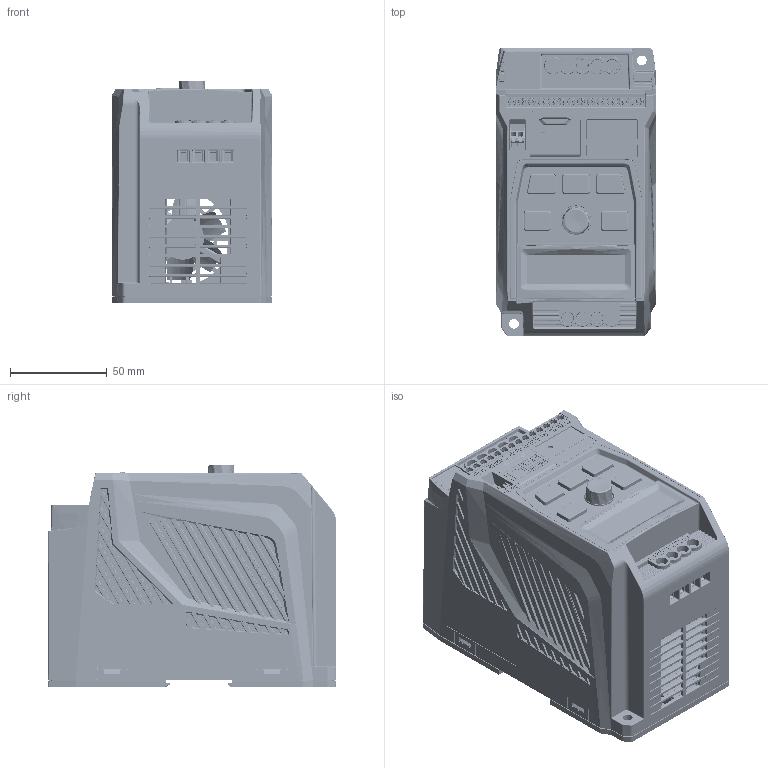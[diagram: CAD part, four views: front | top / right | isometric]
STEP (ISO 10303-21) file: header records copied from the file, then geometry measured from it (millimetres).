
FILE_DESCRIPTION(('STEP AP203'), '1');
FILE_NAME('NCI-G0.75_P1.5-4B', '2025-05-20T07:13:42', (' '), (' '), 'C3D Converter', 'C3D Toolkit', '');
FILE_SCHEMA(('CONFIG_CONTROL_DESIGN'));
Length unit declared in the file: millimetre
Bounding box: 83.05 x 149 x 115.09 mm (x, y, z)
Volume: 295633.8 mm3; surface area: 433319 mm2
Topology: 650 solids, 666 shells, 22545 faces, 58768 edges, 38368 vertices
Faces by surface type: plane 16511, cylinder 3788, bspline 1329, torus 506, cone 240, extrusion 105, sphere 66
Full cylindrical faces by diameter (mm): 0.5 x14, 0.508 x7, 0.6 x11, 0.635 x1, 0.65 x5, 0.75 x4, 0.762 x2, 0.8 x4, 0.889 x8, 0.9 x8, 1 x37, 1.016 x8, 1.1 x4, 1.27 x2, 1.3 x1, 1.4 x20, 1.5 x4, 2 x11, 2.3 x2, 2.5 x27, 2.54 x3, 3 x17, 3.1 x14, 3.2 x28, 3.3 x15, 3.5 x10, 3.7 x1, 4 x5, 4.1 x30, 4.2 x2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
Entity records: 1048431 total; most frequent: CARTESIAN_POINT 325560, ORIENTED_EDGE 116084, DIRECTION 100627, EDGE_CURVE 58059, VECTOR 44619, LINE 44514, VERTEX_POINT 38271, AXIS2_PLACEMENT_3D 28004
